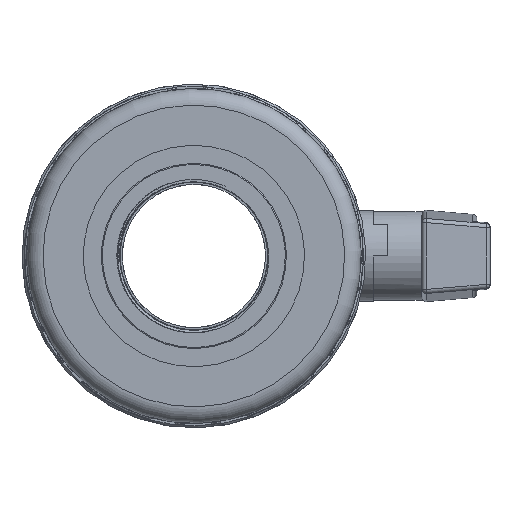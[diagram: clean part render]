
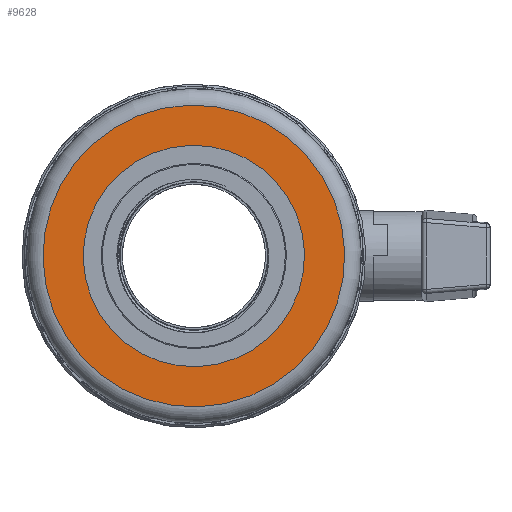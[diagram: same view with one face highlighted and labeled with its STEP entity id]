
A CAD part, front view. The second image highlights one B-rep face of the part: STEP entity #9628.
In plain terms, the highlighted planar face has unit normal (0, -1, 0).
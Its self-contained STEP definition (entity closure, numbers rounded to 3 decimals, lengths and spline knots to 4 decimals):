
#151=PLANE('',#10437);
#456=FACE_BOUND('',#2593,.T.);
#1972=FACE_OUTER_BOUND('',#2592,.T.);
#2592=EDGE_LOOP('',(#7422));
#2593=EDGE_LOOP('',(#7423));
#3432=CIRCLE('',#10438,7.375);
#3433=CIRCLE('',#10439,5.41);
#4155=VERTEX_POINT('',#42674);
#4156=VERTEX_POINT('',#42676);
#5324=EDGE_CURVE('',#4155,#4155,#3432,.T.);
#5325=EDGE_CURVE('',#4156,#4156,#3433,.T.);
#7422=ORIENTED_EDGE('',*,*,#5324,.F.);
#7423=ORIENTED_EDGE('',*,*,#5325,.T.);
#9628=ADVANCED_FACE('',(#1972,#456),#151,.T.);
#10437=AXIS2_PLACEMENT_3D('',#42673,#12296,#12297);
#10438=AXIS2_PLACEMENT_3D('',#42675,#12298,#12299);
#10439=AXIS2_PLACEMENT_3D('',#42677,#12300,#12301);
#12296=DIRECTION('center_axis',(0.,-1.,0.));
#12297=DIRECTION('ref_axis',(-0.85,0.,-0.527));
#12298=DIRECTION('center_axis',(0.,1.,0.));
#12299=DIRECTION('ref_axis',(0.527,0.,-0.85));
#12300=DIRECTION('center_axis',(0.,1.,0.));
#12301=DIRECTION('ref_axis',(0.527,0.,-0.85));
#42673=CARTESIAN_POINT('Origin',(-3.8885,-8.65,6.2666));
#42674=CARTESIAN_POINT('',(-3.8885,-8.65,6.2666));
#42675=CARTESIAN_POINT('Origin',(0.,-8.65,0.));
#42676=CARTESIAN_POINT('',(-2.8524,-8.65,4.5969));
#42677=CARTESIAN_POINT('Origin',(0.,-8.65,0.));
